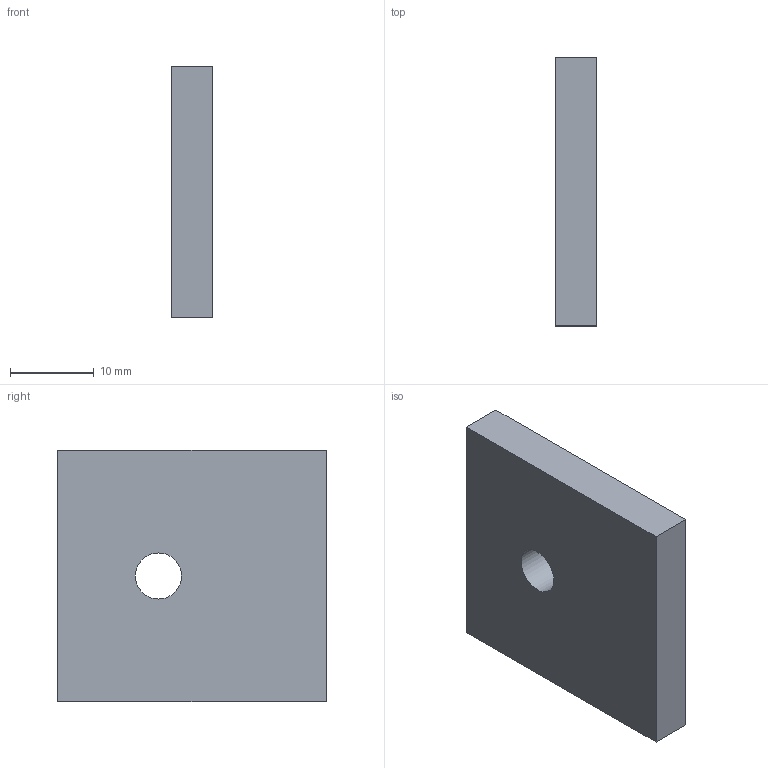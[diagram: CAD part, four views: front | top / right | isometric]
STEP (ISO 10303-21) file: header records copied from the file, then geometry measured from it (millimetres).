
FILE_DESCRIPTION(('Open CASCADE Model'),'2;1');
FILE_NAME('Open CASCADE Shape Model','2026-10-16T18:52:00',('Author'),( 'Open CASCADE'),'Open CASCADE STEP processor 7.8','Open CASCADE 7.8' ,'Unknown');
FILE_SCHEMA(('AUTOMOTIVE_DESIGN { 1 0 10303 214 1 1 1 1 }'));
Length unit declared in the file: millimetre
Products named in the file (1): Open CASCADE STEP translator 7.8 65
Bounding box: 5 x 32 x 30 mm (x, y, z)
Volume: 4681.2 mm3; surface area: 2578.9 mm2
Topology: 1 solids, 1 shells, 7 faces, 15 edges, 10 vertices
Faces by surface type: plane 6, cylinder 1
Full cylindrical faces by diameter (mm): 5.5 x1
Entity records: 406 total; most frequent: CARTESIAN_POINT 75, DIRECTION 61, LINE 41, VECTOR 41, ORIENTED_EDGE 30, PCURVE 30, DEFINITIONAL_REPRESENTATION 30, EDGE_CURVE 15
